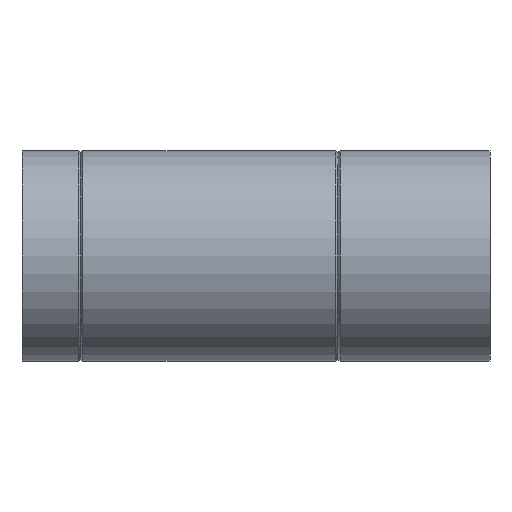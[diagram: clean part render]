
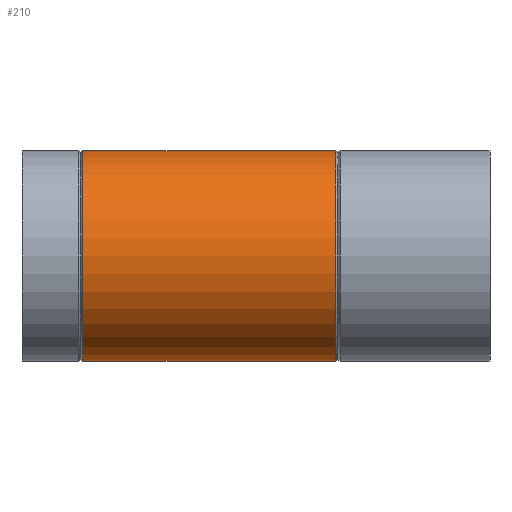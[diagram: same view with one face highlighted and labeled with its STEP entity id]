
A CAD part, left-side view. The second image highlights one B-rep face of the part: STEP entity #210.
In plain terms, the highlighted cylindrical face has radius 45 mm (diameter 90 mm), a full revolution.
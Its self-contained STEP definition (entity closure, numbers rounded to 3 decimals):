
#15=ELLIPSE($,#234,62.823,45.);
#16=ELLIPSE($,#235,64.489,45.);
#19=CYLINDRICAL_SURFACE($,#232,45.);
#28=FACE_BOUND($,#65,.T.);
#29=FACE_BOUND($,#66,.T.);
#50=FACE_OUTER_BOUND($,#64,.T.);
#64=EDGE_LOOP($,(#151));
#65=EDGE_LOOP($,(#152,#153));
#66=EDGE_LOOP($,(#154));
#96=CIRCLE($,#231,45.);
#97=CIRCLE($,#233,45.);
#111=VERTEX_POINT($,#341);
#112=VERTEX_POINT($,#344);
#113=VERTEX_POINT($,#346);
#114=VERTEX_POINT($,#347);
#130=EDGE_CURVE($,#111,#111,#96,.T.);
#131=EDGE_CURVE($,#112,#112,#97,.T.);
#132=EDGE_CURVE($,#113,#114,#15,.T.);
#133=EDGE_CURVE($,#114,#113,#16,.T.);
#151=ORIENTED_EDGE($,*,*,#131,.T.);
#152=ORIENTED_EDGE($,*,*,#132,.T.);
#153=ORIENTED_EDGE($,*,*,#133,.T.);
#154=ORIENTED_EDGE($,*,*,#130,.T.);
#210=ADVANCED_FACE($,(#50,#28,#29),#19,.T.);
#231=AXIS2_PLACEMENT_3D($,#342,#272,#273);
#232=AXIS2_PLACEMENT_3D($,#343,#274,#275);
#233=AXIS2_PLACEMENT_3D($,#345,#276,#277);
#234=AXIS2_PLACEMENT_3D($,#348,#278,#279);
#235=AXIS2_PLACEMENT_3D($,#349,#280,#281);
#272=DIRECTION('center_axis',(0.,-1.,0.));
#273=DIRECTION('ref_axis',(1.,0.,0.));
#274=DIRECTION('center_axis',(0.,1.,0.));
#275=DIRECTION('ref_axis',(1.,0.,0.));
#276=DIRECTION('center_axis',(0.,1.,0.));
#277=DIRECTION('ref_axis',(1.,0.,0.));
#278=DIRECTION('center_axis',(-0.698,-0.716,0.));
#279=DIRECTION('ref_axis',(0.716,-0.698,0.));
#280=DIRECTION('center_axis',(-0.716,0.698,0.));
#281=DIRECTION('ref_axis',(-0.698,-0.716,0.));
#341=CARTESIAN_POINT('',(45.,174.1,0.));
#342=CARTESIAN_POINT('Origin',(0.,174.1,0.));
#343=CARTESIAN_POINT('Origin',(0.,0.,0.));
#344=CARTESIAN_POINT('',(-45.,65.9,0.));
#345=CARTESIAN_POINT('Origin',(0.,65.9,0.));
#346=CARTESIAN_POINT('',(0.,120.,-45.));
#347=CARTESIAN_POINT('',(0.,120.,45.));
#348=CARTESIAN_POINT('Origin',(0.,120.,0.));
#349=CARTESIAN_POINT('Origin',(0.,120.,0.));
